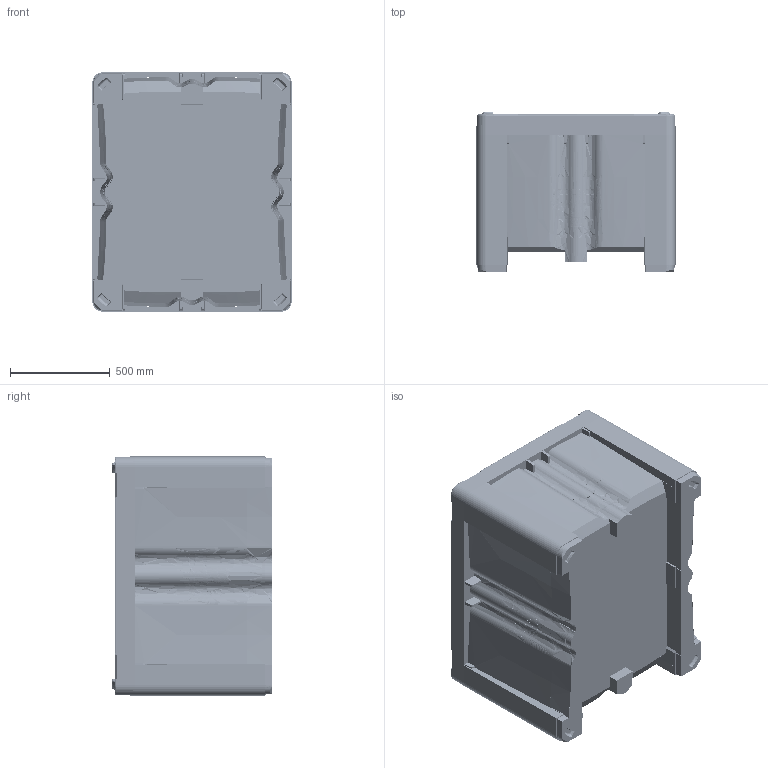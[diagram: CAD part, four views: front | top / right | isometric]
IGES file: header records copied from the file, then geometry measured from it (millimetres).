
Start section: SolidWorks IGES file using analytic representation for surfaces
Global section: file name: C:\ProdVault\Production Data\Hybrid 1012\1110xxxxxxxx 1012-790 Hybrid Block LongFoot 2way.IGS; native system: SolidWorks 2018; preprocessor: SolidWorks 2018; author: Todd Turner; date: 180824.165839; units: millimetre
Bounding box: 1000 x 802.5 x 1200 mm (x, y, z)
Surface area: 10273765.8 mm2 (no closed solid volume)
Topology: 0 solids, 0 shells, 6187 faces, 103282 edges, 103259 vertices
Faces by surface type: bspline 5697, revolution 490
